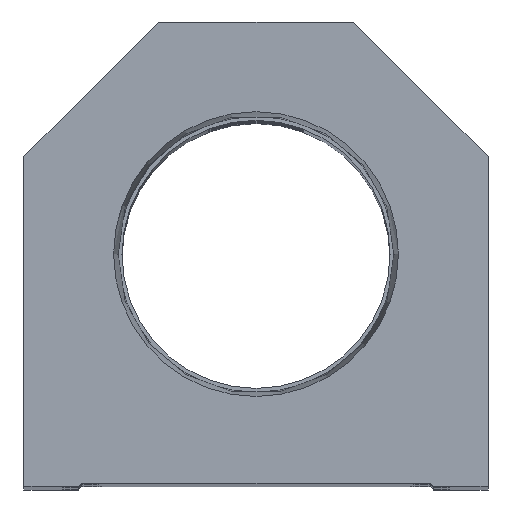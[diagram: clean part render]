
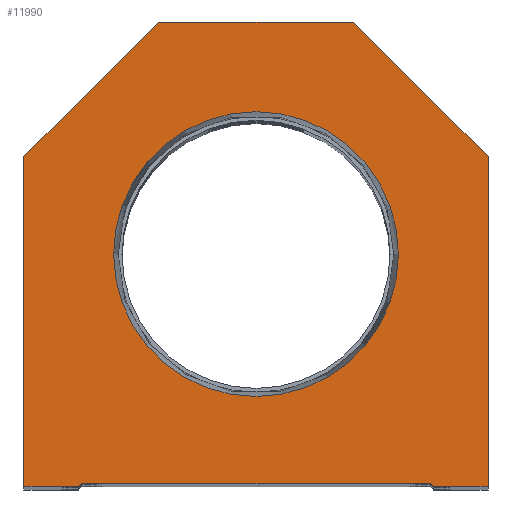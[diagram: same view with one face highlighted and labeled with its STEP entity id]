
A CAD part, top view. The second image highlights one B-rep face of the part: STEP entity #11990.
In plain terms, the highlighted planar face has unit normal (0, 0, 1).
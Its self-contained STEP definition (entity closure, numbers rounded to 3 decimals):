
#98 = DIRECTION ( 'NONE',  ( 1., 0., 0. ) ) ;
#159 = CARTESIAN_POINT ( 'NONE',  ( 38.1, 54.1, 0. ) ) ;
#160 = ORIENTED_EDGE ( 'NONE', *, *, #12092, .T. ) ;
#390 = CARTESIAN_POINT ( 'NONE',  ( -14.55, 14.55, 0. ) ) ;
#432 = EDGE_LOOP ( 'NONE', ( #6469, #7637, #3638, #2816, #16282, #21578, #4869, #1097, #160, #21331 ) ) ;
#1097 = ORIENTED_EDGE ( 'NONE', *, *, #21336, .T. ) ;
#1489 = VERTEX_POINT ( 'NONE', #11958 ) ;
#1591 = EDGE_CURVE ( 'NONE', #19588, #15265, #10308, .T. ) ;
#1690 = AXIS2_PLACEMENT_3D ( 'NONE', #4980, #9869, #8771 ) ;
#1795 = DIRECTION ( 'NONE',  ( -1., 0., 0. ) ) ;
#2161 = DIRECTION ( 'NONE',  ( 0., -1., 0. ) ) ;
#2238 = EDGE_CURVE ( 'NONE', #15265, #16168, #7159, .T. ) ;
#2256 = DIRECTION ( 'NONE',  ( 0., 1., 0. ) ) ;
#2377 = DIRECTION ( 'NONE',  ( 1., 0., 0. ) ) ;
#2816 = ORIENTED_EDGE ( 'NONE', *, *, #16883, .T. ) ;
#2856 = EDGE_CURVE ( 'NONE', #11231, #4917, #7210, .T. ) ;
#3040 = EDGE_CURVE ( 'NONE', #17643, #1489, #5260, .T. ) ;
#3128 = VECTOR ( 'NONE', #5418, 1000. ) ;
#3638 = ORIENTED_EDGE ( 'NONE', *, *, #2238, .T. ) ;
#4081 = LINE ( 'NONE', #17260, #16470 ) ;
#4860 = CARTESIAN_POINT ( 'NONE',  ( -38.1, 0., 0. ) ) ;
#4869 = ORIENTED_EDGE ( 'NONE', *, *, #9587, .T. ) ;
#4907 = VERTEX_POINT ( 'NONE', #6172 ) ;
#4917 = VERTEX_POINT ( 'NONE', #11474 ) ;
#4980 = CARTESIAN_POINT ( 'NONE',  ( 0., 0., 0. ) ) ;
#5260 = CIRCLE ( 'NONE', #17424, 23.374 ) ;
#5418 = DIRECTION ( 'NONE',  ( 0.707, 0.707, 0. ) ) ;
#5529 = CARTESIAN_POINT ( 'NONE',  ( -28.6, 0.5, 0. ) ) ;
#5826 = DIRECTION ( 'NONE',  ( 0., 0., 1. ) ) ;
#6044 = DIRECTION ( 'NONE',  ( -0.707, -0.707, 0. ) ) ;
#6099 = FACE_BOUND ( 'NONE', #6599, .T. ) ;
#6172 = CARTESIAN_POINT ( 'NONE',  ( -38.1, 54.1, 0. ) ) ;
#6282 = VECTOR ( 'NONE', #2256, 1000. ) ;
#6469 = ORIENTED_EDGE ( 'NONE', *, *, #9365, .T. ) ;
#6599 = EDGE_LOOP ( 'NONE', ( #7904, #18425 ) ) ;
#6609 = CARTESIAN_POINT ( 'NONE',  ( 23.374, 38.1, 0. ) ) ;
#6752 = DIRECTION ( 'NONE',  ( 0., 0., 1. ) ) ;
#6801 = AXIS2_PLACEMENT_3D ( 'NONE', #12452, #5826, #9517 ) ;
#6943 = DIRECTION ( 'NONE',  ( 1., 0., 0. ) ) ;
#7067 = CARTESIAN_POINT ( 'NONE',  ( -28.6, 0., 0. ) ) ;
#7159 = LINE ( 'NONE', #5529, #10763 ) ;
#7210 = LINE ( 'NONE', #13843, #11837 ) ;
#7281 = EDGE_CURVE ( 'NONE', #1489, #17643, #14087, .T. ) ;
#7637 = ORIENTED_EDGE ( 'NONE', *, *, #1591, .T. ) ;
#7904 = ORIENTED_EDGE ( 'NONE', *, *, #3040, .F. ) ;
#8057 = CARTESIAN_POINT ( 'NONE',  ( -28.6, 0.5, 0. ) ) ;
#8359 = CARTESIAN_POINT ( 'NONE',  ( 29.1, 0., 0. ) ) ;
#8732 = CARTESIAN_POINT ( 'NONE',  ( 0., 38.1, 0. ) ) ;
#8771 = DIRECTION ( 'NONE',  ( 1., 0., 0. ) ) ;
#8885 = VERTEX_POINT ( 'NONE', #4860 ) ;
#9233 = LINE ( 'NONE', #7067, #12079 ) ;
#9365 = EDGE_CURVE ( 'NONE', #8885, #19588, #9233, .T. ) ;
#9517 = DIRECTION ( 'NONE',  ( 1., 0., 0. ) ) ;
#9587 = EDGE_CURVE ( 'NONE', #14170, #21143, #15082, .T. ) ;
#9869 = DIRECTION ( 'NONE',  ( 0., 0., 1. ) ) ;
#10082 = LINE ( 'NONE', #14768, #11724 ) ;
#10159 = EDGE_CURVE ( 'NONE', #4907, #8885, #20808, .T. ) ;
#10308 = LINE ( 'NONE', #390, #3128 ) ;
#10763 = VECTOR ( 'NONE', #6943, 1000. ) ;
#11231 = VERTEX_POINT ( 'NONE', #8359 ) ;
#11412 = VERTEX_POINT ( 'NONE', #11477 ) ;
#11474 = CARTESIAN_POINT ( 'NONE',  ( 38.1, 0., 0. ) ) ;
#11477 = CARTESIAN_POINT ( 'NONE',  ( -16., 76.2, 0. ) ) ;
#11724 = VECTOR ( 'NONE', #1795, 1000. ) ;
#11837 = VECTOR ( 'NONE', #12651, 1000. ) ;
#11958 = CARTESIAN_POINT ( 'NONE',  ( -23.374, 38.1, 0. ) ) ;
#11990 = ADVANCED_FACE ( 'NONE', ( #6099, #16098 ), #21555, .T. ) ;
#12079 = VECTOR ( 'NONE', #2377, 1000. ) ;
#12092 = EDGE_CURVE ( 'NONE', #11412, #4907, #15600, .T. ) ;
#12374 = CARTESIAN_POINT ( 'NONE',  ( 38.1, 0., 0. ) ) ;
#12434 = CARTESIAN_POINT ( 'NONE',  ( 38.1, 54.1, 0. ) ) ;
#12452 = CARTESIAN_POINT ( 'NONE',  ( 0., 38.1, 0. ) ) ;
#12650 = CARTESIAN_POINT ( 'NONE',  ( 28.6, 0.5, 0. ) ) ;
#12651 = DIRECTION ( 'NONE',  ( 1., 0., 0. ) ) ;
#13178 = EDGE_CURVE ( 'NONE', #4917, #14170, #19044, .T. ) ;
#13843 = CARTESIAN_POINT ( 'NONE',  ( 28.6, 0., 0. ) ) ;
#14087 = CIRCLE ( 'NONE', #6801, 23.374 ) ;
#14091 = DIRECTION ( 'NONE',  ( 0.707, -0.707, 0. ) ) ;
#14170 = VERTEX_POINT ( 'NONE', #12434 ) ;
#14768 = CARTESIAN_POINT ( 'NONE',  ( 16., 76.2, 0. ) ) ;
#15082 = LINE ( 'NONE', #159, #16628 ) ;
#15218 = VECTOR ( 'NONE', #2161, 1000. ) ;
#15265 = VERTEX_POINT ( 'NONE', #8057 ) ;
#15600 = LINE ( 'NONE', #20978, #19463 ) ;
#16098 = FACE_OUTER_BOUND ( 'NONE', #432, .T. ) ;
#16168 = VERTEX_POINT ( 'NONE', #12650 ) ;
#16282 = ORIENTED_EDGE ( 'NONE', *, *, #2856, .T. ) ;
#16470 = VECTOR ( 'NONE', #14091, 1000. ) ;
#16541 = DIRECTION ( 'NONE',  ( -0.707, 0.707, 0. ) ) ;
#16628 = VECTOR ( 'NONE', #16541, 1000. ) ;
#16837 = CARTESIAN_POINT ( 'NONE',  ( -29.1, 0., 0. ) ) ;
#16883 = EDGE_CURVE ( 'NONE', #16168, #11231, #4081, .T. ) ;
#17093 = CARTESIAN_POINT ( 'NONE',  ( -38.1, 0., 0. ) ) ;
#17260 = CARTESIAN_POINT ( 'NONE',  ( 14.55, 14.55, 0. ) ) ;
#17424 = AXIS2_PLACEMENT_3D ( 'NONE', #8732, #6752, #98 ) ;
#17643 = VERTEX_POINT ( 'NONE', #6609 ) ;
#18425 = ORIENTED_EDGE ( 'NONE', *, *, #7281, .F. ) ;
#18503 = CARTESIAN_POINT ( 'NONE',  ( 16., 76.2, 0. ) ) ;
#19044 = LINE ( 'NONE', #12374, #6282 ) ;
#19463 = VECTOR ( 'NONE', #6044, 1000. ) ;
#19588 = VERTEX_POINT ( 'NONE', #16837 ) ;
#20808 = LINE ( 'NONE', #17093, #15218 ) ;
#20978 = CARTESIAN_POINT ( 'NONE',  ( -38.1, 54.1, 0. ) ) ;
#21143 = VERTEX_POINT ( 'NONE', #18503 ) ;
#21331 = ORIENTED_EDGE ( 'NONE', *, *, #10159, .T. ) ;
#21336 = EDGE_CURVE ( 'NONE', #21143, #11412, #10082, .T. ) ;
#21555 = PLANE ( 'NONE',  #1690 ) ;
#21578 = ORIENTED_EDGE ( 'NONE', *, *, #13178, .T. ) ;
